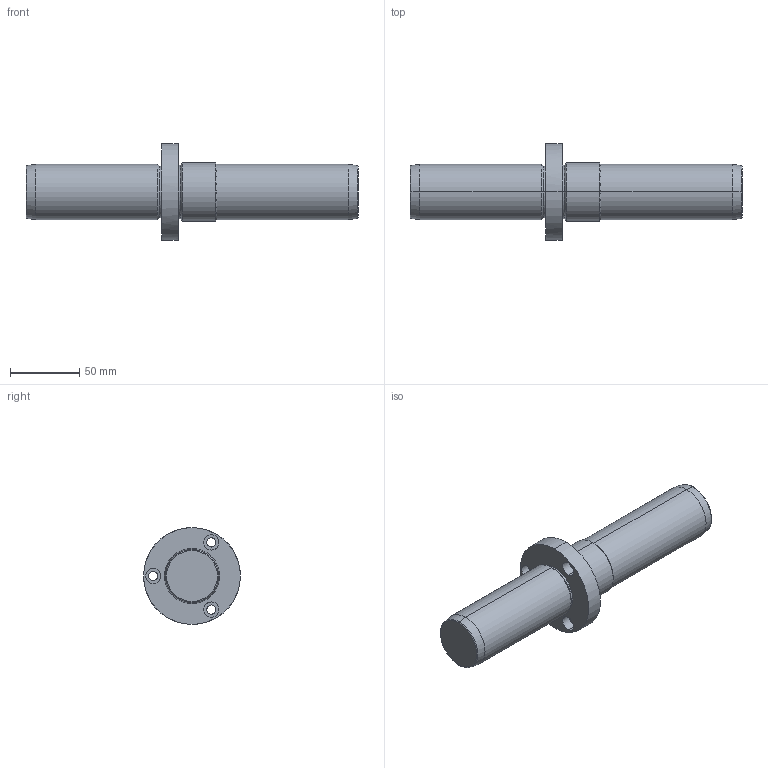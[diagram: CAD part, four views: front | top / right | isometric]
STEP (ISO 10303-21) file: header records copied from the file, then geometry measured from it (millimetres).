
FILE_DESCRIPTION(('CATIA V5 STEP Exchange'),'2;1');
FILE_NAME('C:\Users\Utente\Desktop\IO LAVORO\3D X SITO CF\X SITO\721\721-40x240.stp','2021-01-01T15:25:00+00:00',('none'),('none'),'CATIA Version 5 Release 20 GA (IN-10)','CATIA V5 STEP AP203','none');
FILE_SCHEMA(('CONFIG_CONTROL_DESIGN'));
Length unit declared in the file: millimetre
Products named in the file (1): 721-40x240
Bounding box: 240 x 70 x 70 mm (x, y, z)
Volume: 332053.7 mm3; surface area: 40072.4 mm2
Topology: 1 solids, 1 shells, 45 faces, 150 edges, 112 vertices
Faces by surface type: cylinder 24, cone 10, plane 7, torus 4
Entity records: 2048 total; most frequent: CARTESIAN_POINT 718, ORIENTED_EDGE 300, DIRECTION 206, EDGE_CURVE 150, AXIS2_PLACEMENT_3D 128, VERTEX_POINT 112, CIRCLE 82, EDGE_LOOP 56
